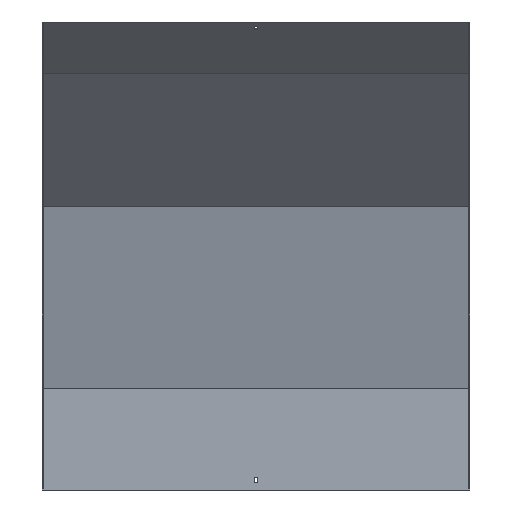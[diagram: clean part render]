
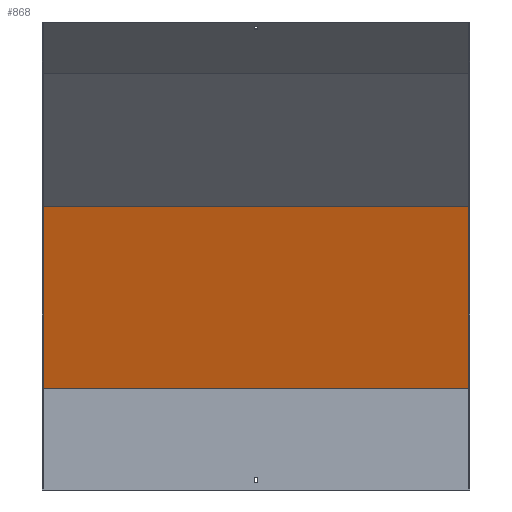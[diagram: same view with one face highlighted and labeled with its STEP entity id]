
A CAD part, front view. The second image highlights one B-rep face of the part: STEP entity #868.
In plain terms, the highlighted planar face has unit normal (0, -0.966, -0.259).
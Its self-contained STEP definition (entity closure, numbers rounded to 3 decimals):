
#14 = DIRECTION ( 'NONE',  ( -1., 0., 0. ) ) ;
#49 = ORIENTED_EDGE ( 'NONE', *, *, #707, .T. ) ;
#192 = DIRECTION ( 'NONE',  ( -1., 0., 0. ) ) ;
#245 = CARTESIAN_POINT ( 'NONE',  ( -350., -61.836, 466.252 ) ) ;
#249 = VECTOR ( 'NONE', #192, 1000. ) ;
#254 = ORIENTED_EDGE ( 'NONE', *, *, #880, .F. ) ;
#282 = CARTESIAN_POINT ( 'NONE',  ( 350., 58.87, 15.774 ) ) ;
#311 = FACE_OUTER_BOUND ( 'NONE', #594, .T. ) ;
#353 = VERTEX_POINT ( 'NONE', #924 ) ;
#378 = EDGE_CURVE ( 'NONE', #353, #540, #687, .T. ) ;
#380 = CARTESIAN_POINT ( 'NONE',  ( -350., 58.87, 15.774 ) ) ;
#435 = VERTEX_POINT ( 'NONE', #872 ) ;
#484 = DIRECTION ( 'NONE',  ( 0., 0.259, -0.966 ) ) ;
#490 = CARTESIAN_POINT ( 'NONE',  ( 351.5, -61.836, 466.252 ) ) ;
#494 = EDGE_CURVE ( 'NONE', #603, #435, #650, .T. ) ;
#540 = VERTEX_POINT ( 'NONE', #245 ) ;
#545 = AXIS2_PLACEMENT_3D ( 'NONE', #919, #932, #484 ) ;
#594 = EDGE_LOOP ( 'NONE', ( #808, #254, #654, #49 ) ) ;
#603 = VERTEX_POINT ( 'NONE', #627 ) ;
#610 = PLANE ( 'NONE',  #545 ) ;
#627 = CARTESIAN_POINT ( 'NONE',  ( 350., 18.5, 166.436 ) ) ;
#650 = LINE ( 'NONE', #282, #960 ) ;
#653 = VECTOR ( 'NONE', #14, 1000. ) ;
#654 = ORIENTED_EDGE ( 'NONE', *, *, #494, .T. ) ;
#687 = LINE ( 'NONE', #380, #811 ) ;
#695 = CARTESIAN_POINT ( 'NONE',  ( 351.5, 18.5, 166.436 ) ) ;
#704 = LINE ( 'NONE', #490, #249 ) ;
#707 = EDGE_CURVE ( 'NONE', #435, #540, #704, .T. ) ;
#775 = DIRECTION ( 'NONE',  ( 0., -0.259, 0.966 ) ) ;
#808 = ORIENTED_EDGE ( 'NONE', *, *, #378, .F. ) ;
#811 = VECTOR ( 'NONE', #775, 1000. ) ;
#828 = LINE ( 'NONE', #695, #653 ) ;
#868 = ADVANCED_FACE ( 'NONE', ( #311 ), #610, .T. ) ;
#872 = CARTESIAN_POINT ( 'NONE',  ( 350., -61.836, 466.252 ) ) ;
#880 = EDGE_CURVE ( 'NONE', #603, #353, #828, .T. ) ;
#919 = CARTESIAN_POINT ( 'NONE',  ( 351.5, 17.87, 168.788 ) ) ;
#924 = CARTESIAN_POINT ( 'NONE',  ( -350., 18.5, 166.436 ) ) ;
#932 = DIRECTION ( 'NONE',  ( 0., -0.966, -0.259 ) ) ;
#960 = VECTOR ( 'NONE', #965, 1000. ) ;
#965 = DIRECTION ( 'NONE',  ( 0., -0.259, 0.966 ) ) ;
